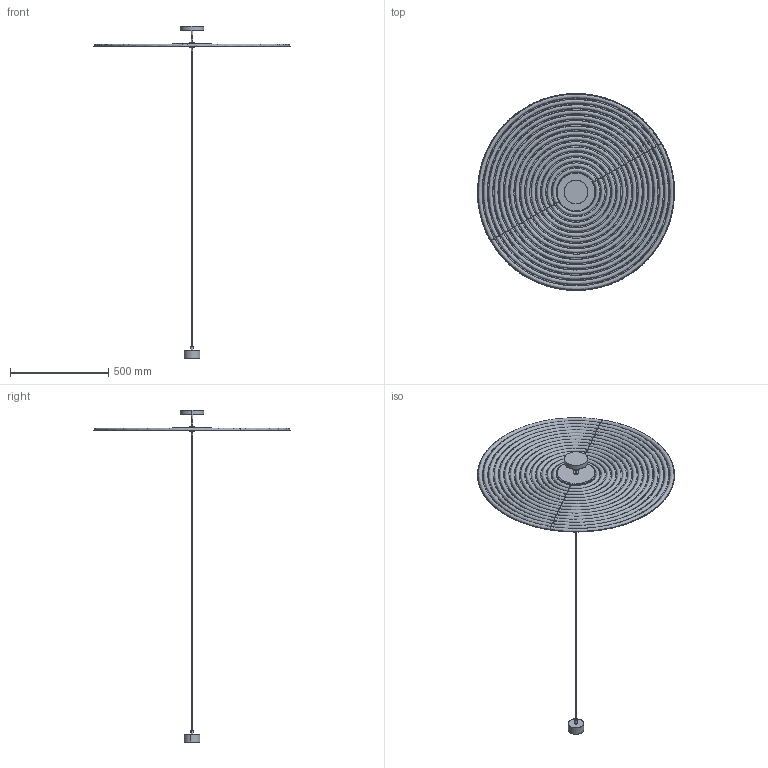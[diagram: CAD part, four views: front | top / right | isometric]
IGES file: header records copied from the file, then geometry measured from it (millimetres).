
Start section: SolidWorks IGES file using analytic representation for surfaces
Global section: file name: C:\Users\Agustin\Desktop\ENERO 2025\2D-3D\2D-3D TICO_C1095\TICO_C1095_100.IGS; native system: SolidWorks 2018; preprocessor: SolidWorks 2018; author: Agustin; date: 250117.164133; units: millimetre
Bounding box: 1001.81 x 1001.8 x 1688 mm (x, y, z)
Surface area: 2368138.3 mm2 (no closed solid volume)
Topology: 0 solids, 0 shells, 312 faces, 5663 edges, 5663 vertices
Faces by surface type: bspline 167, revolution 145
